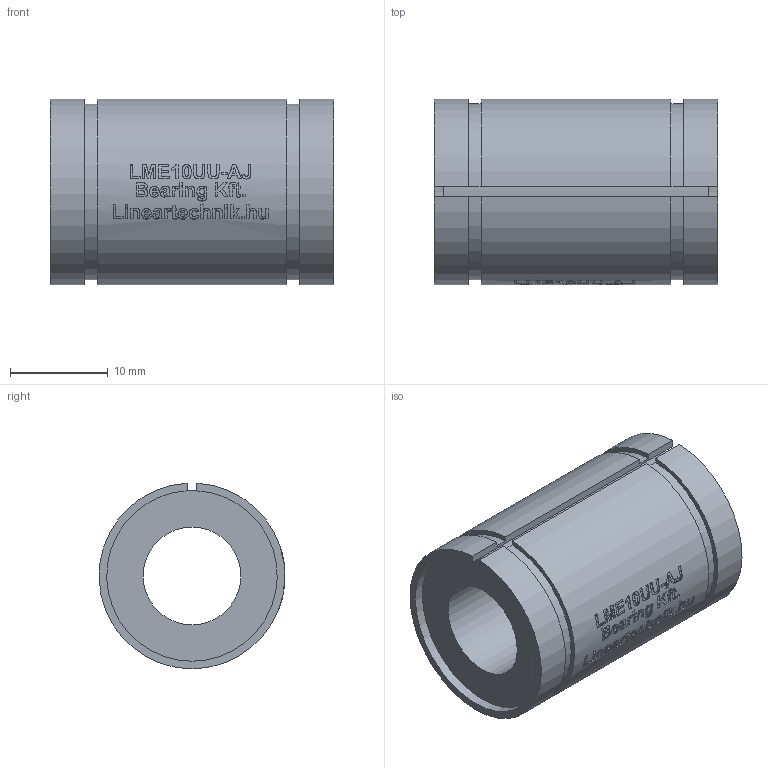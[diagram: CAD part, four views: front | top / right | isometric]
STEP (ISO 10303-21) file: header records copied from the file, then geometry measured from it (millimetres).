
FILE_DESCRIPTION(/* description */ (''),/* implementation_level */ '2;1');
FILE_NAME(/* name */ 'LME10UU-AJ',/* time_stamp */ '2019-07-02T12:05:33+02:00',/* author */ ('VĂ©gh MĂˇtĂ©'),/* organization */ ('Bearing Kft'),/* preprocessor_version */ 'ST-DEVELOPER v16.7',/* originating_system */ 'DEX',/* authorisation */ $);
FILE_SCHEMA (('AUTOMOTIVE_DESIGN {1 0 10303 214 3 1 1}'));
Length unit declared in the file: millimetre
Products named in the file (1): LME10UU-AJ
Bounding box: 29 x 19 x 18.99 mm (x, y, z)
Volume: 5524.8 mm3; surface area: 3262.2 mm2
Topology: 1 solids, 1 shells, 342 faces, 867 edges, 576 vertices
Faces by surface type: plane 184, bspline 99, cylinder 59
Full cylindrical faces by diameter (mm): 10 x1
Entity records: 15916 total; most frequent: CARTESIAN_POINT 8159, ORIENTED_EDGE 1724, DIRECTION 1317, EDGE_CURVE 862, VERTEX_POINT 575, LINE 493, VECTOR 493, AXIS2_PLACEMENT_3D 412
